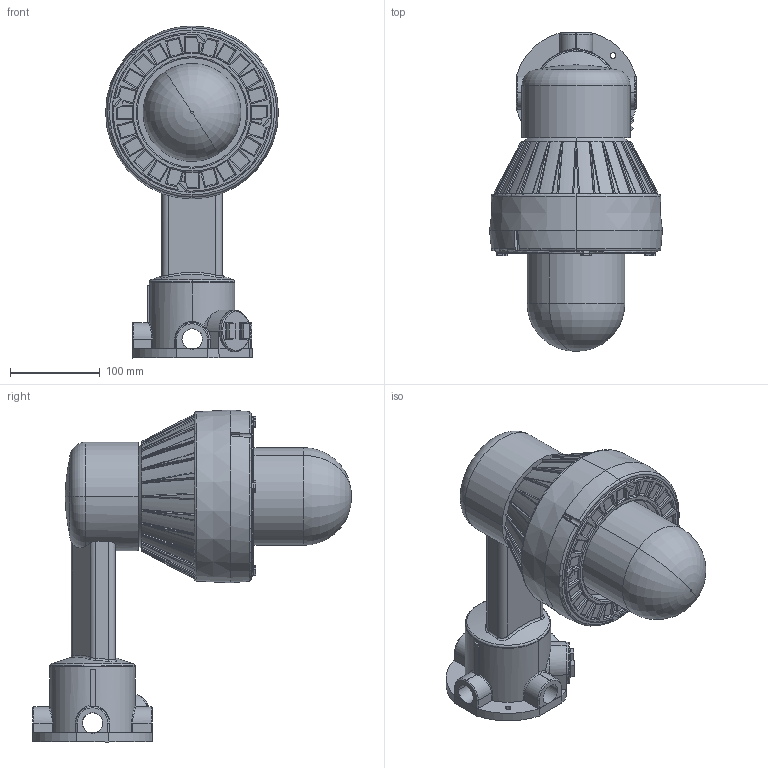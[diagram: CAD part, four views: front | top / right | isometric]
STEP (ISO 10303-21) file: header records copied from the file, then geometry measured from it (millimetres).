
FILE_DESCRIPTION (( 'STEP AP214' ), '1' );
FILE_NAME ('EPSL-80-141 Wall Mount.STEP', '2010-09-18T02:54:24', ( 'Owner' ), ( 'HOME' ), 'SwSTEP 2.0', 'SolidWorks 2008', '' );
FILE_SCHEMA (( 'AUTOMOTIVE_DESIGN' ));
Length unit declared in the file: inch
Products named in the file (4): Body; Lens; Wall Mount; EPSL-80-141 Wall Mount
Assembly tree (3 placements, depth 2):
  EPSL-80-141 Wall Mount
    Lens
    Body
    Wall Mount
Bounding box: 192.68 x 355.49 x 370.06 mm (x, y, z)
Volume: 4914152.7 mm3; surface area: 400411.2 mm2
Topology: 3 solids, 3 shells, 702 faces, 1851 edges, 1174 vertices
Faces by surface type: plane 362, cylinder 245, torus 41, cone 30, bspline 21, sphere 3
Entity records: 23501 total; most frequent: CARTESIAN_POINT 7100, ORIENTED_EDGE 3698, DIRECTION 3056, EDGE_CURVE 1849, VERTEX_POINT 1173, AXIS2_PLACEMENT_3D 1043, VECTOR 970, LINE 970
